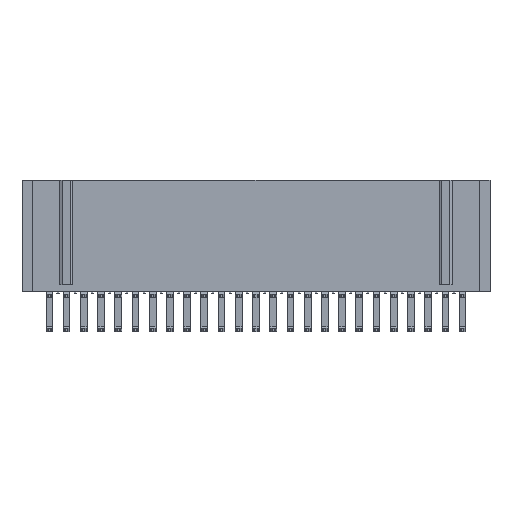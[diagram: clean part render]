
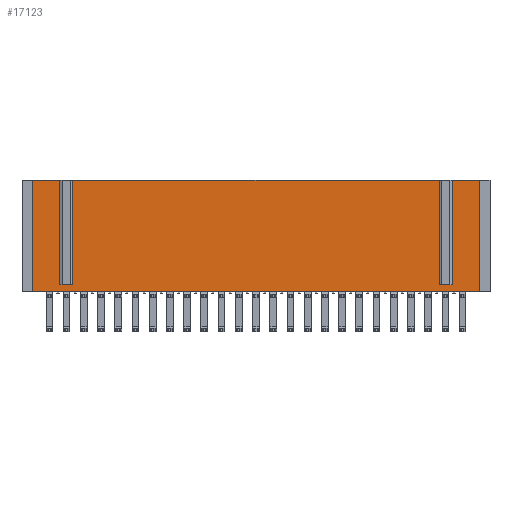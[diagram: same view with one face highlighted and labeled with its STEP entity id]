
A CAD part, front view. The second image highlights one B-rep face of the part: STEP entity #17123.
In plain terms, the highlighted planar face has unit normal (0, -1, 0).
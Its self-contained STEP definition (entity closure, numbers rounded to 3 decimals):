
#7354 = VECTOR ( 'NONE', #9502, 1000. ) ;
#7361 = VECTOR ( 'NONE', #9521, 1000. ) ;
#7362 = VECTOR ( 'NONE', #9525, 1000. ) ;
#7365 = VECTOR ( 'NONE', #9546, 1000. ) ;
#7366 = VECTOR ( 'NONE', #9556, 1000. ) ;
#7369 = VECTOR ( 'NONE', #9569, 1000. ) ;
#7372 = VECTOR ( 'NONE', #9587, 1000. ) ;
#7373 = VECTOR ( 'NONE', #9593, 1000. ) ;
#7374 = VECTOR ( 'NONE', #9600, 1000. ) ;
#7894 = VECTOR ( 'NONE', #11299, 1000. ) ;
#7912 = VECTOR ( 'NONE', #11360, 1000. ) ;
#7915 = VECTOR ( 'NONE', #11358, 1000. ) ;
#9479 = LINE ( 'NONE', #9497, #7354 ) ;
#9497 = CARTESIAN_POINT ( 'NONE',  ( -32.166, -4.873, 8.2 ) ) ;
#9502 = DIRECTION ( 'NONE',  ( 0., 0., -1. ) ) ;
#9514 = LINE ( 'NONE', #9519, #7361 ) ;
#9519 = CARTESIAN_POINT ( 'NONE',  ( -37.686, -4.873, -7.2 ) ) ;
#9521 = DIRECTION ( 'NONE',  ( 1., 0., 0. ) ) ;
#9522 = LINE ( 'NONE', #9524, #7362 ) ;
#9523 = LINE ( 'NONE', #9553, #7366 ) ;
#9524 = CARTESIAN_POINT ( 'NONE',  ( -30.166, -4.873, 8.2 ) ) ;
#9525 = DIRECTION ( 'NONE',  ( 0., 0., 1. ) ) ;
#9540 = LINE ( 'NONE', #9544, #7365 ) ;
#9544 = CARTESIAN_POINT ( 'NONE',  ( 23.834, -4.873, 8.2 ) ) ;
#9546 = DIRECTION ( 'NONE',  ( 0., 0., -1. ) ) ;
#9553 = CARTESIAN_POINT ( 'NONE',  ( -37.686, -4.873, -7.2 ) ) ;
#9556 = DIRECTION ( 'NONE',  ( 1., 0., 0. ) ) ;
#9564 = LINE ( 'NONE', #9567, #7369 ) ;
#9567 = CARTESIAN_POINT ( 'NONE',  ( 25.834, -4.873, 8.2 ) ) ;
#9569 = DIRECTION ( 'NONE',  ( 0., 0., 1. ) ) ;
#9583 = LINE ( 'NONE', #9585, #7372 ) ;
#9585 = CARTESIAN_POINT ( 'NONE',  ( -37.686, -4.873, 8.2 ) ) ;
#9587 = DIRECTION ( 'NONE',  ( 1., 0., 0. ) ) ;
#9590 = LINE ( 'NONE', #9592, #7373 ) ;
#9592 = CARTESIAN_POINT ( 'NONE',  ( -37.686, -4.873, 8.2 ) ) ;
#9593 = DIRECTION ( 'NONE',  ( 1., 0., 0. ) ) ;
#9595 = LINE ( 'NONE', #9598, #7374 ) ;
#9598 = CARTESIAN_POINT ( 'NONE',  ( -37.686, -4.873, 8.2 ) ) ;
#9600 = DIRECTION ( 'NONE',  ( 1., 0., 0. ) ) ;
#11282 = LINE ( 'NONE', #11297, #7894 ) ;
#11297 = CARTESIAN_POINT ( 'NONE',  ( 29.854, -4.873, 8.2 ) ) ;
#11299 = DIRECTION ( 'NONE',  ( 0., 0., -1. ) ) ;
#11342 = LINE ( 'NONE', #11359, #7912 ) ;
#11355 = LINE ( 'NONE', #11357, #7915 ) ;
#11357 = CARTESIAN_POINT ( 'NONE',  ( -36.186, -4.873, 8.2 ) ) ;
#11358 = DIRECTION ( 'NONE',  ( 0., 0., 1. ) ) ;
#11359 = CARTESIAN_POINT ( 'NONE',  ( -37.686, -4.873, -8.2 ) ) ;
#11360 = DIRECTION ( 'NONE',  ( 1., 0., 0. ) ) ;
#12817 = AXIS2_PLACEMENT_3D ( 'NONE', #19570, #19583, #19585 ) ;
#15402 = EDGE_CURVE ( 'NONE', #38929, #38939, #9479, .T. ) ;
#15405 = EDGE_CURVE ( 'NONE', #38939, #38936, #9514, .T. ) ;
#15406 = EDGE_CURVE ( 'NONE', #38936, #38941, #9522, .T. ) ;
#15409 = EDGE_CURVE ( 'NONE', #38938, #38943, #9540, .T. ) ;
#15411 = EDGE_CURVE ( 'NONE', #38943, #38942, #9523, .T. ) ;
#15413 = EDGE_CURVE ( 'NONE', #38942, #38935, #9564, .T. ) ;
#15416 = EDGE_CURVE ( 'NONE', #38944, #38929, #9583, .T. ) ;
#15417 = EDGE_CURVE ( 'NONE', #38941, #38938, #9590, .T. ) ;
#15418 = EDGE_CURVE ( 'NONE', #38935, #38945, #9595, .T. ) ;
#15839 = EDGE_CURVE ( 'NONE', #38945, #33859, #11282, .T. ) ;
#15859 = EDGE_CURVE ( 'NONE', #33873, #38944, #11355, .T. ) ;
#15860 = EDGE_CURVE ( 'NONE', #33873, #33859, #11342, .T. ) ;
#17123 = ADVANCED_FACE ( 'NONE', ( #19578 ), #19580, .F. ) ;
#19570 = CARTESIAN_POINT ( 'NONE',  ( -37.686, -4.873, 8.2 ) ) ;
#19578 = FACE_OUTER_BOUND ( 'NONE', #37092, .T. ) ;
#19580 = PLANE ( 'NONE',  #12817 ) ;
#19583 = DIRECTION ( 'NONE',  ( 0., 1., 0. ) ) ;
#19585 = DIRECTION ( 'NONE',  ( 0., 0., 1. ) ) ;
#32610 = ORIENTED_EDGE ( 'NONE', *, *, #15416, .F. ) ;
#32611 = ORIENTED_EDGE ( 'NONE', *, *, #15859, .F. ) ;
#32612 = ORIENTED_EDGE ( 'NONE', *, *, #15860, .T. ) ;
#32613 = ORIENTED_EDGE ( 'NONE', *, *, #15839, .F. ) ;
#32614 = ORIENTED_EDGE ( 'NONE', *, *, #15418, .F. ) ;
#32615 = ORIENTED_EDGE ( 'NONE', *, *, #15413, .F. ) ;
#32617 = ORIENTED_EDGE ( 'NONE', *, *, #15411, .F. ) ;
#32618 = ORIENTED_EDGE ( 'NONE', *, *, #15409, .F. ) ;
#32619 = ORIENTED_EDGE ( 'NONE', *, *, #15417, .F. ) ;
#32620 = ORIENTED_EDGE ( 'NONE', *, *, #15406, .F. ) ;
#32621 = ORIENTED_EDGE ( 'NONE', *, *, #15405, .F. ) ;
#32622 = ORIENTED_EDGE ( 'NONE', *, *, #15402, .F. ) ;
#33859 = VERTEX_POINT ( 'NONE', #48632 ) ;
#33873 = VERTEX_POINT ( 'NONE', #48658 ) ;
#37092 = EDGE_LOOP ( 'NONE', ( #32610, #32611, #32612, #32613, #32614, #32615, #32617, #32618, #32619, #32620, #32621, #32622 ) ) ;
#38929 = VERTEX_POINT ( 'NONE', #50496 ) ;
#38935 = VERTEX_POINT ( 'NONE', #50508 ) ;
#38936 = VERTEX_POINT ( 'NONE', #50510 ) ;
#38938 = VERTEX_POINT ( 'NONE', #50514 ) ;
#38939 = VERTEX_POINT ( 'NONE', #50516 ) ;
#38941 = VERTEX_POINT ( 'NONE', #50520 ) ;
#38942 = VERTEX_POINT ( 'NONE', #50522 ) ;
#38943 = VERTEX_POINT ( 'NONE', #50524 ) ;
#38944 = VERTEX_POINT ( 'NONE', #50526 ) ;
#38945 = VERTEX_POINT ( 'NONE', #50528 ) ;
#48632 = CARTESIAN_POINT ( 'NONE',  ( 29.854, -4.873, -8.2 ) ) ;
#48658 = CARTESIAN_POINT ( 'NONE',  ( -36.186, -4.873, -8.2 ) ) ;
#50496 = CARTESIAN_POINT ( 'NONE',  ( -32.166, -4.873, 8.2 ) ) ;
#50508 = CARTESIAN_POINT ( 'NONE',  ( 25.834, -4.873, 8.2 ) ) ;
#50510 = CARTESIAN_POINT ( 'NONE',  ( -30.166, -4.873, -7.2 ) ) ;
#50514 = CARTESIAN_POINT ( 'NONE',  ( 23.834, -4.873, 8.2 ) ) ;
#50516 = CARTESIAN_POINT ( 'NONE',  ( -32.166, -4.873, -7.2 ) ) ;
#50520 = CARTESIAN_POINT ( 'NONE',  ( -30.166, -4.873, 8.2 ) ) ;
#50522 = CARTESIAN_POINT ( 'NONE',  ( 25.834, -4.873, -7.2 ) ) ;
#50524 = CARTESIAN_POINT ( 'NONE',  ( 23.834, -4.873, -7.2 ) ) ;
#50526 = CARTESIAN_POINT ( 'NONE',  ( -36.186, -4.873, 8.2 ) ) ;
#50528 = CARTESIAN_POINT ( 'NONE',  ( 29.854, -4.873, 8.2 ) ) ;
